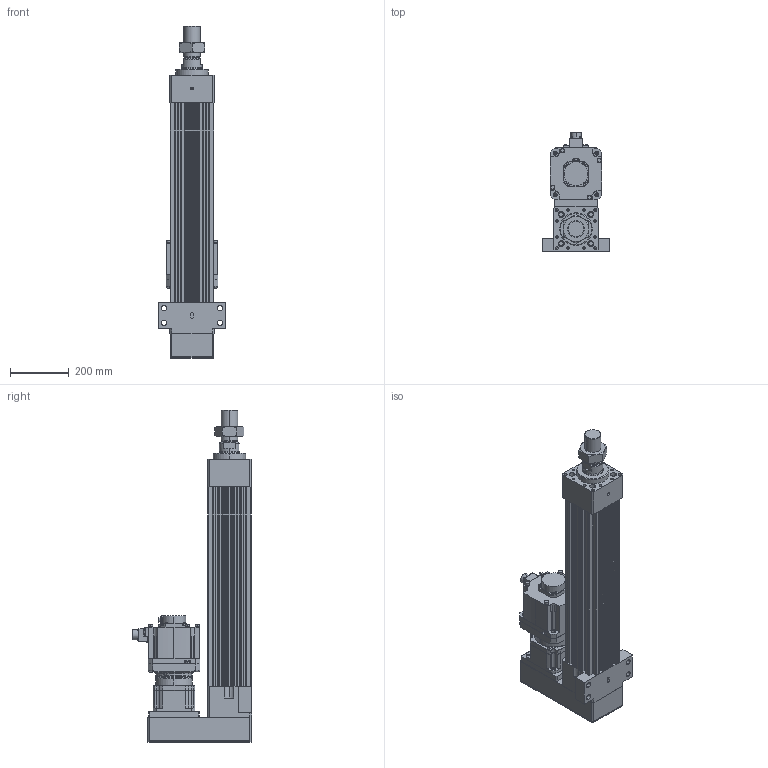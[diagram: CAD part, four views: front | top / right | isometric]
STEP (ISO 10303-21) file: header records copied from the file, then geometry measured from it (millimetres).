
FILE_DESCRIPTION (( 'STEP AP203' ), '1' );
FILE_NAME ('HES150NS(HS)-P400-W035G00-M-FFC.STEP', '2023-01-31T09:45:45', ( 'tms' ), ( '' ), 'SwSTEP 2.0', 'SolidWorks 2013', '' );
FILE_SCHEMA (( 'CONFIG_CONTROL_DESIGN' ));
Length unit declared in the file: millimetre
Products named in the file (9): HES150NS(HS)-P400-W035G00-M-FFC; HG-SR352; AB142-003[HG-SR352]; HES150 ROD M ST400; P1301500001; HES150-P400-G142-FFC; P0403500801; AB1421; M56X2.0P
Assembly tree (8 placements, depth 3):
  HES150NS(HS)-P400-W035G00-M-FFC
    HES150-P400-G142-FFC
    HES150 ROD M ST400
    M56X2.0P
    AB142-003[HG-SR352]
      AB1421
      P1301500001
      P0403500801
    HG-SR352
Bounding box: 230 x 403.85 x 1126 mm (x, y, z)
Volume: 19247333.3 mm3; surface area: 1896849.8 mm2
Topology: 4 solids, 18 shells, 1470 faces, 3831 edges, 2471 vertices
Faces by surface type: cylinder 693, plane 529, cone 166, bspline 76, torus 6
Entity records: 53945 total; most frequent: CARTESIAN_POINT 16549, DIRECTION 7839, ORIENTED_EDGE 7520, EDGE_CURVE 3782, AXIS2_PLACEMENT_3D 2986, VERTEX_POINT 2471, LINE 1867, VECTOR 1867
